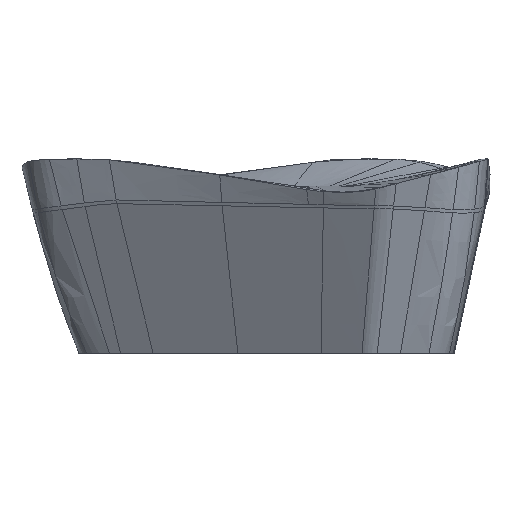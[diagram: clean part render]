
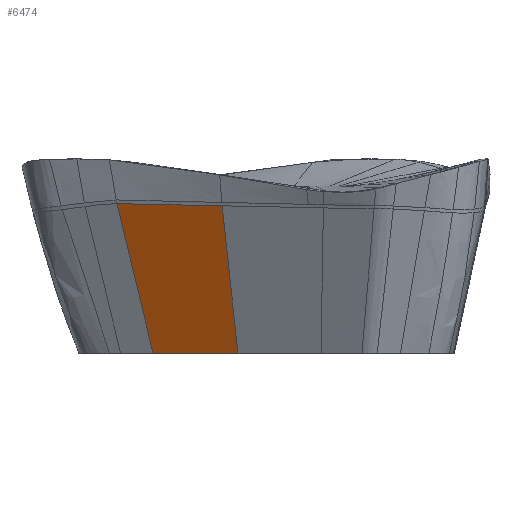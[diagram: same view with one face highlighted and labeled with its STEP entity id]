
A CAD part, left-side view. The second image highlights one B-rep face of the part: STEP entity #6474.
In plain terms, the highlighted free-form (B-spline) face has degree [5, 5] with [6, 6] control points.
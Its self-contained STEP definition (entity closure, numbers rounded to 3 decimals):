
#4347=CARTESIAN_POINT('Vertex',(-2.605,1.503,0.)) ;
#4351=CARTESIAN_POINT('Control Point',(-2.605,1.503,0.)) ;
#4352=CARTESIAN_POINT('Control Point',(-2.398,1.858,0.)) ;
#4353=CARTESIAN_POINT('Control Point',(-2.191,2.213,0.)) ;
#4354=CARTESIAN_POINT('Control Point',(-1.984,2.568,0.)) ;
#4355=CARTESIAN_POINT('Control Point',(-1.777,2.922,0.)) ;
#4356=CARTESIAN_POINT('Control Point',(-1.57,3.277,0.)) ;
#4357=CARTESIAN_POINT('Vertex',(-1.57,3.277,0.)) ;
#6389=CARTESIAN_POINT('Control Point',(-1.905,4.035,3.125)) ;
#6390=CARTESIAN_POINT('Control Point',(-1.838,3.884,2.5)) ;
#6391=CARTESIAN_POINT('Control Point',(-1.771,3.732,1.875)) ;
#6392=CARTESIAN_POINT('Control Point',(-1.704,3.58,1.25)) ;
#6393=CARTESIAN_POINT('Control Point',(-1.637,3.429,0.625)) ;
#6394=CARTESIAN_POINT('Control Point',(-1.57,3.277,0.)) ;
#6395=CARTESIAN_POINT('Vertex',(-1.905,4.036,3.125)) ;
#6414=CARTESIAN_POINT('Control Point',(-3.177,1.835,3.08)) ;
#6415=CARTESIAN_POINT('Control Point',(-2.923,2.273,3.089)) ;
#6416=CARTESIAN_POINT('Control Point',(-2.667,2.717,3.098)) ;
#6417=CARTESIAN_POINT('Control Point',(-2.414,3.154,3.107)) ;
#6418=CARTESIAN_POINT('Control Point',(-2.159,3.596,3.116)) ;
#6419=CARTESIAN_POINT('Control Point',(-1.905,4.035,3.125)) ;
#6420=CARTESIAN_POINT('Control Point',(-3.062,1.769,2.464)) ;
#6421=CARTESIAN_POINT('Control Point',(-2.809,2.207,2.473)) ;
#6422=CARTESIAN_POINT('Control Point',(-2.567,2.625,2.48)) ;
#6423=CARTESIAN_POINT('Control Point',(-2.333,3.028,2.485)) ;
#6424=CARTESIAN_POINT('Control Point',(-2.092,3.444,2.491)) ;
#6425=CARTESIAN_POINT('Control Point',(-1.838,3.884,2.5)) ;
#6426=CARTESIAN_POINT('Control Point',(-2.948,1.702,1.848)) ;
#6427=CARTESIAN_POINT('Control Point',(-2.708,2.116,1.854)) ;
#6428=CARTESIAN_POINT('Control Point',(-2.474,2.519,1.859)) ;
#6429=CARTESIAN_POINT('Control Point',(-2.245,2.915,1.864)) ;
#6430=CARTESIAN_POINT('Control Point',(-2.011,3.318,1.869)) ;
#6431=CARTESIAN_POINT('Control Point',(-1.771,3.732,1.875)) ;
#6432=CARTESIAN_POINT('Control Point',(-2.834,1.636,1.232)) ;
#6433=CARTESIAN_POINT('Control Point',(-2.612,2.017,1.235)) ;
#6434=CARTESIAN_POINT('Control Point',(-2.384,2.409,1.239)) ;
#6435=CARTESIAN_POINT('Control Point',(-2.153,2.807,1.243)) ;
#6436=CARTESIAN_POINT('Control Point',(-1.925,3.2,1.247)) ;
#6437=CARTESIAN_POINT('Control Point',(-1.704,3.58,1.25)) ;
#6438=CARTESIAN_POINT('Control Point',(-2.719,1.569,0.616)) ;
#6439=CARTESIAN_POINT('Control Point',(-2.511,1.926,0.616)) ;
#6440=CARTESIAN_POINT('Control Point',(-2.292,2.303,0.619)) ;
#6441=CARTESIAN_POINT('Control Point',(-2.064,2.695,0.622)) ;
#6442=CARTESIAN_POINT('Control Point',(-1.844,3.074,0.625)) ;
#6443=CARTESIAN_POINT('Control Point',(-1.637,3.429,0.625)) ;
#6444=CARTESIAN_POINT('Control Point',(-2.605,1.503,0.)) ;
#6445=CARTESIAN_POINT('Control Point',(-2.397,1.86,0.)) ;
#6446=CARTESIAN_POINT('Control Point',(-2.192,2.211,0.)) ;
#6447=CARTESIAN_POINT('Control Point',(-1.983,2.569,0.)) ;
#6448=CARTESIAN_POINT('Control Point',(-1.777,2.922,0.)) ;
#6449=CARTESIAN_POINT('Control Point',(-1.57,3.277,0.)) ;
#6451=CARTESIAN_POINT('Control Point',(-3.177,1.835,3.08)) ;
#6452=CARTESIAN_POINT('Control Point',(-3.062,1.769,2.464)) ;
#6453=CARTESIAN_POINT('Control Point',(-2.948,1.702,1.848)) ;
#6454=CARTESIAN_POINT('Control Point',(-2.834,1.636,1.232)) ;
#6455=CARTESIAN_POINT('Control Point',(-2.719,1.569,0.616)) ;
#6456=CARTESIAN_POINT('Control Point',(-2.605,1.503,0.)) ;
#6457=CARTESIAN_POINT('Vertex',(-3.177,1.835,3.08)) ;
#6461=CARTESIAN_POINT('Control Point',(-3.177,1.835,3.08)) ;
#6462=CARTESIAN_POINT('Control Point',(-2.923,2.273,3.089)) ;
#6463=CARTESIAN_POINT('Control Point',(-2.667,2.717,3.098)) ;
#6464=CARTESIAN_POINT('Control Point',(-2.414,3.154,3.107)) ;
#6465=CARTESIAN_POINT('Control Point',(-2.159,3.596,3.116)) ;
#6466=CARTESIAN_POINT('Control Point',(-1.905,4.035,3.125)) ;
#6469=ORIENTED_EDGE('',*,*,#4359,.F.) ;
#6470=ORIENTED_EDGE('',*,*,#6459,.F.) ;
#6471=ORIENTED_EDGE('',*,*,#6467,.T.) ;
#6472=ORIENTED_EDGE('',*,*,#6397,.T.) ;
#6474=ADVANCED_FACE('CUT',(#6473),#6413,.F.) ;
#4350=B_SPLINE_CURVE_WITH_KNOTS('',5,(#4351,#4352,#4353,#4354,#4355,#4356),.UNSPECIFIED.,.F.,.U.,(6,6),(3.004,5.058),.UNSPECIFIED.) ;
#6388=B_SPLINE_CURVE_WITH_KNOTS('',5,(#6389,#6390,#6391,#6392,#6393,#6394),.UNSPECIFIED.,.F.,.U.,(6,6),(0.,3.153),.UNSPECIFIED.) ;
#6450=B_SPLINE_CURVE_WITH_KNOTS('',5,(#6451,#6452,#6453,#6454,#6455,#6456),.UNSPECIFIED.,.F.,.U.,(6,6),(0.,3.153),.UNSPECIFIED.) ;
#6460=B_SPLINE_CURVE_WITH_KNOTS('',5,(#6461,#6462,#6463,#6464,#6465,#6466),.UNSPECIFIED.,.F.,.U.,(6,6),(8.609,10.746),.UNSPECIFIED.) ;
#6413=B_SPLINE_SURFACE_WITH_KNOTS('',5,5,((#6414,#6415,#6416,#6417,#6418,#6419),(#6420,#6421,#6422,#6423,#6424,#6425),(#6426,#6427,#6428,#6429,#6430,#6431),(#6432,#6433,#6434,#6435,#6436,#6437),(#6438,#6439,#6440,#6441,#6442,#6443),(#6444,#6445,#6446,#6447,#6448,#6449)),.UNSPECIFIED.,.F.,.F.,.U.,(6,6),(6,6),(0.,3.153),(8.609,10.746),.UNSPECIFIED.) ;
#4359=EDGE_CURVE('',#4348,#4358,#4350,.T.) ;
#6397=EDGE_CURVE('',#6396,#4358,#6388,.T.) ;
#6459=EDGE_CURVE('',#6458,#4348,#6450,.T.) ;
#6467=EDGE_CURVE('',#6458,#6396,#6460,.T.) ;
#6468=EDGE_LOOP('',(#6469,#6470,#6471,#6472)) ;
#6473=FACE_OUTER_BOUND('',#6468,.T.) ;
#4348=VERTEX_POINT('',#4347) ;
#4358=VERTEX_POINT('',#4357) ;
#6396=VERTEX_POINT('',#6395) ;
#6458=VERTEX_POINT('',#6457) ;
